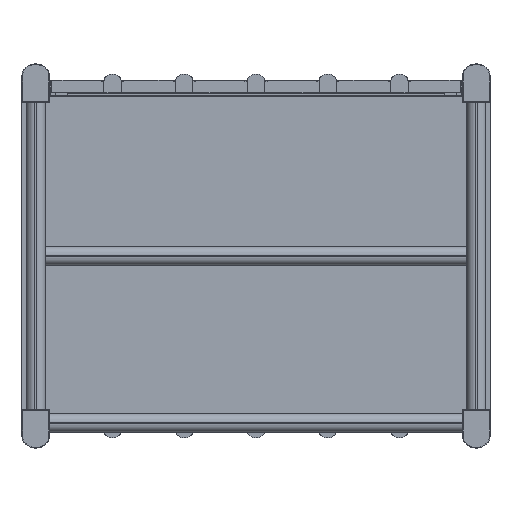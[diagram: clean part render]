
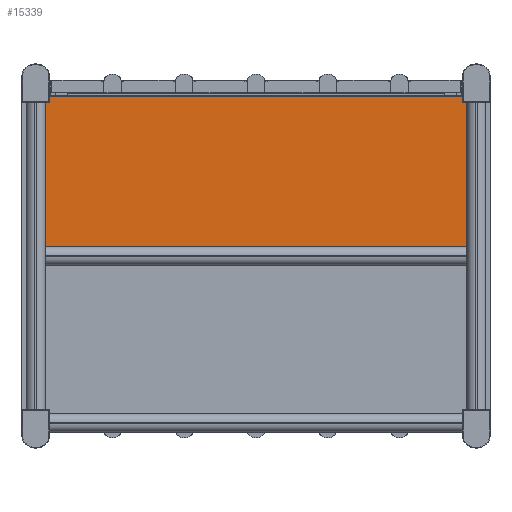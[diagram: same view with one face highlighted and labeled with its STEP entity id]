
A CAD part, front view. The second image highlights one B-rep face of the part: STEP entity #15339.
In plain terms, the highlighted planar face has unit normal (0, -1, 0).
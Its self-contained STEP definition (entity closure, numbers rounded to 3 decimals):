
#146 = CARTESIAN_POINT ( 'NONE',  ( -247., 745., 11. ) ) ;
#168 = DIRECTION ( 'NONE',  ( 0., 0., -1. ) ) ;
#408 = DIRECTION ( 'NONE',  ( 0., 0., -1. ) ) ;
#430 = EDGE_LOOP ( 'NONE', ( #10034, #8048, #9968, #13712, #18023, #17821, #13701, #15085 ) ) ;
#493 = LINE ( 'NONE', #3469, #18157 ) ;
#781 = DIRECTION ( 'NONE',  ( 1., 0., 0. ) ) ;
#925 = LINE ( 'NONE', #3797, #2807 ) ;
#1048 = VECTOR ( 'NONE', #168, 1000. ) ;
#1353 = EDGE_CURVE ( 'Defeatured_1_360+Defeatured_1_217+Defeatured_1_128+Defeatured_1_258', #15971, #7016, #3546, .T. ) ;
#1425 = VECTOR ( 'NONE', #3514, 1000. ) ;
#1701 = CARTESIAN_POINT ( 'NONE',  ( -242., 745., 211. ) ) ;
#1855 = CARTESIAN_POINT ( 'NONE',  ( 320., 745., 0. ) ) ;
#2069 = CARTESIAN_POINT ( 'NONE',  ( -242., 745., 187.293 ) ) ;
#2483 = CARTESIAN_POINT ( 'NONE',  ( -247., 745., 248.622 ) ) ;
#2807 = VECTOR ( 'NONE', #14183, 1000. ) ;
#3469 = CARTESIAN_POINT ( 'NONE',  ( -306.237, 745., 11. ) ) ;
#3514 = DIRECTION ( 'NONE',  ( -1., 0., 0. ) ) ;
#3546 = LINE ( 'NONE', #9420, #10925 ) ;
#3797 = CARTESIAN_POINT ( 'NONE',  ( 247., 745., -248.622 ) ) ;
#3908 = CARTESIAN_POINT ( 'NONE',  ( 242., 745., 180. ) ) ;
#4036 = EDGE_CURVE ( 'Defeatured_1_129+Defeatured_1_360+Defeatured_1_355+Defeatured_1_188', #18352, #18743, #7110, .T. ) ;
#5381 = CARTESIAN_POINT ( 'NONE',  ( 242., 745., 187.293 ) ) ;
#5905 = CARTESIAN_POINT ( 'NONE',  ( 247., 745., 11. ) ) ;
#7016 = VERTEX_POINT ( 'NONE', #17576 ) ;
#7110 = LINE ( 'NONE', #17217, #10398 ) ;
#7635 = FACE_OUTER_BOUND ( 'NONE', #430, .T. ) ;
#7732 = DIRECTION ( 'NONE',  ( 0., -1., 0. ) ) ;
#7941 = EDGE_CURVE ( 'Defeatured_1_360+Defeatured_1_250+Defeatured_1_258+Defeatured_1_252', #11937, #9122, #493, .T. ) ;
#7977 = DIRECTION ( 'NONE',  ( -1., 0., 0. ) ) ;
#8048 = ORIENTED_EDGE ( 'NONE', *, *, #8900, .T. ) ;
#8860 = DIRECTION ( 'NONE',  ( 1., 0., 0. ) ) ;
#8900 = EDGE_CURVE ( 'Defeatured_1_360+Defeatured_1_252+Defeatured_1_250+Defeatured_1_188', #9122, #14357, #925, .T. ) ;
#8932 = LINE ( 'NONE', #1701, #1048 ) ;
#9122 = VERTEX_POINT ( 'NONE', #5905 ) ;
#9420 = CARTESIAN_POINT ( 'NONE',  ( -242., 745., 180. ) ) ;
#9712 = DIRECTION ( 'NONE',  ( 0., 0., -1. ) ) ;
#9844 = EDGE_CURVE ( 'Defeatured_1_360+Defeatured_1_128+Defeatured_1_355+Defeatured_1_217', #16476, #15971, #8932, .T. ) ;
#9968 = ORIENTED_EDGE ( 'NONE', *, *, #15444, .F. ) ;
#10034 = ORIENTED_EDGE ( 'NONE', *, *, #7941, .T. ) ;
#10253 = VECTOR ( 'NONE', #9712, 1000. ) ;
#10398 = VECTOR ( 'NONE', #14122, 1000. ) ;
#10925 = VECTOR ( 'NONE', #7977, 1000. ) ;
#11937 = VERTEX_POINT ( 'NONE', #146 ) ;
#12682 = AXIS2_PLACEMENT_3D ( 'NONE', #1855, #7732, #408 ) ;
#12775 = LINE ( 'NONE', #2483, #10253 ) ;
#13265 = CARTESIAN_POINT ( 'NONE',  ( 242., 745., 180. ) ) ;
#13494 = PLANE ( 'NONE',  #12682 ) ;
#13503 = CARTESIAN_POINT ( 'NONE',  ( -242., 745., 180. ) ) ;
#13701 = ORIENTED_EDGE ( 'NONE', *, *, #1353, .T. ) ;
#13710 = LINE ( 'NONE', #2069, #1425 ) ;
#13712 = ORIENTED_EDGE ( 'NONE', *, *, #4036, .F. ) ;
#14122 = DIRECTION ( 'NONE',  ( 0., 0., -1. ) ) ;
#14183 = DIRECTION ( 'NONE',  ( 0., 0., 1. ) ) ;
#14357 = VERTEX_POINT ( 'NONE', #14794 ) ;
#14794 = CARTESIAN_POINT ( 'NONE',  ( 247., 745., 180. ) ) ;
#14805 = LINE ( 'NONE', #13265, #18237 ) ;
#15085 = ORIENTED_EDGE ( 'NONE', *, *, #17012, .T. ) ;
#15339 = ADVANCED_FACE ( 'Defeatured_1_360', ( #7635 ), #13494, .T. ) ;
#15444 = EDGE_CURVE ( 'Defeatured_1_188+Defeatured_1_360+Defeatured_1_129+Defeatured_1_252', #18743, #14357, #14805, .T. ) ;
#15971 = VERTEX_POINT ( 'NONE', #13503 ) ;
#16476 = VERTEX_POINT ( 'NONE', #16946 ) ;
#16946 = CARTESIAN_POINT ( 'NONE',  ( -242., 745., 187.293 ) ) ;
#17012 = EDGE_CURVE ( 'Defeatured_1_360+Defeatured_1_258+Defeatured_1_217+Defeatured_1_250', #7016, #11937, #12775, .T. ) ;
#17217 = CARTESIAN_POINT ( 'NONE',  ( 242., 745., 211. ) ) ;
#17576 = CARTESIAN_POINT ( 'NONE',  ( -247., 745., 180. ) ) ;
#17821 = ORIENTED_EDGE ( 'NONE', *, *, #9844, .T. ) ;
#18023 = ORIENTED_EDGE ( 'NONE', *, *, #18867, .T. ) ;
#18157 = VECTOR ( 'NONE', #781, 1000. ) ;
#18237 = VECTOR ( 'NONE', #8860, 1000. ) ;
#18352 = VERTEX_POINT ( 'NONE', #5381 ) ;
#18743 = VERTEX_POINT ( 'NONE', #3908 ) ;
#18867 = EDGE_CURVE ( 'Defeatured_1_360+Defeatured_1_355+Defeatured_1_129+Defeatured_1_128', #18352, #16476, #13710, .T. ) ;
